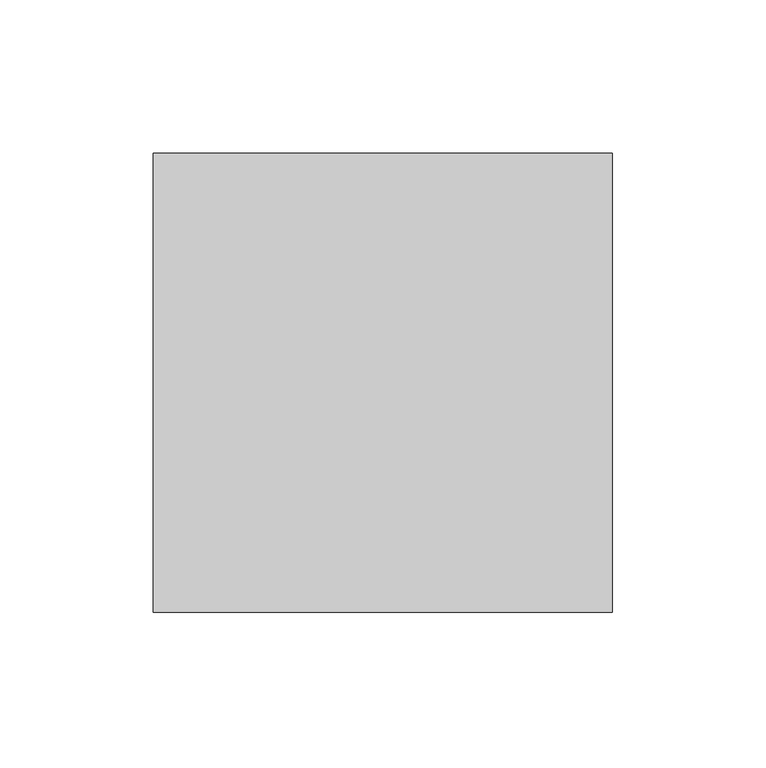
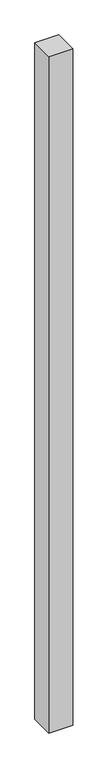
"""IFC4 building model written with IfcOpenShell, lengths in millimetres: proxy geometry, Брус : 150х150."""

from ifc_helpers import new_model, si_unit, origin, origin_with_axes, place, context, project, spatial, polyline, outline, extrude, source, transform, mapped, element, save


def generic_models_fb02990d(model_context):
    return source(origin(), model_context, "Body", "SweptSolid", [
        extrude(outline(polyline([(150.0, 0.0), (150.0, -150.0), (0.0, -150.0), (0.0, 0.0), (150.0, 0.0)])), origin_with_axes(), (0.0, 0.0, 1.0), 4490.0),
    ])


if __name__ == "__main__":
    model = new_model("IFC4")
    model_context = context("Model", 3, world=origin())
    ifc_project = project(units=[si_unit("LENGTHUNIT", "METRE", prefix="MILLI")], contexts=[model_context])
    site = spatial("IfcSite", under=ifc_project)
    building = spatial("IfcBuilding", under=site)
    placement = place(None, origin())
    generic_models_shape = generic_models_fb02990d(model_context)
    element("IfcBuildingElementProxy", 1, Name="Брус : 150х150", ObjectType="Брус : 150х150", at=placement, inside=building, context=model_context, shape_type="MappedRepresentation", body=[
        mapped(generic_models_shape, transform((0.0, 0.0, 0.0), x_axis=(1.0, 0.0, 0.0), y_axis=(0.0, 1.0, 0.0), z_axis=(0.0, 0.0, 1.0))),
    ])
    save(model, "model.ifc")
